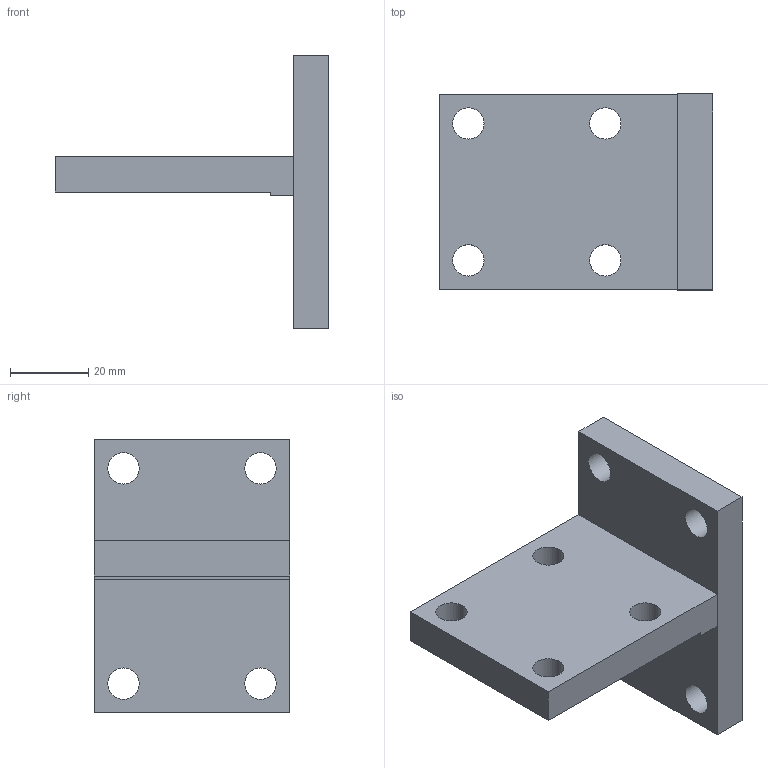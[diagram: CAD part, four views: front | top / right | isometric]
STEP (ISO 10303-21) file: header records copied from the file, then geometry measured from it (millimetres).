
FILE_DESCRIPTION(/* description */ (''),/* implementation_level */ '2;1');
FILE_NAME(/* name */ 'C:\Local Work Area\Progetti\AP\CALIBRI\03 Staffe\03.01.stp',/* time_stamp */ '2015-03-31T09:41:43+02:00',/* author */ ('CAD5'),/* organization */ (''),/* preprocessor_version */ 'ST-DEVELOPER v15.2',/* originating_system */ 'Autodesk Inventor 2014',/* authorisation */ '');
FILE_SCHEMA (('AUTOMOTIVE_DESIGN { 1 0 10303 214 3 1 1 }'));
Length unit declared in the file: millimetre
Products named in the file (3): 03.01-a; 03.01-b; 03.01
Bounding box: 70 x 50 x 70 mm (x, y, z)
Volume: 55630.9 mm3; surface area: 18375.3 mm2
Topology: 2 solids, 2 shells, 22 faces, 62 edges, 44 vertices
Faces by surface type: plane 14, cylinder 8
Full cylindrical faces by diameter (mm): 8 x8
Entity records: 711 total; most frequent: DIRECTION 116, CARTESIAN_POINT 109, ORIENTED_EDGE 92, EDGE_LOOP 46, EDGE_CURVE 46, AXIS2_PLACEMENT_3D 43, VERTEX_POINT 36, LINE 30
